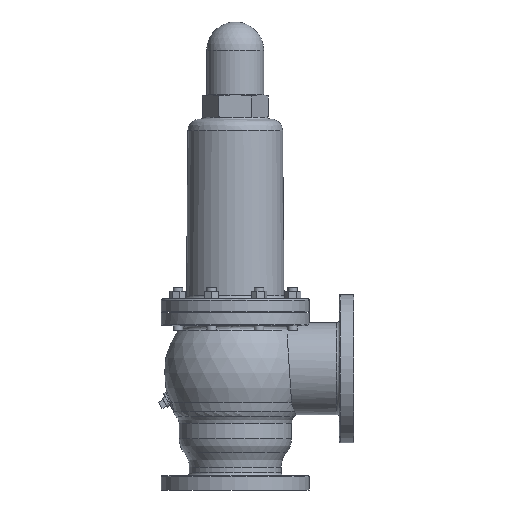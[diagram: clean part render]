
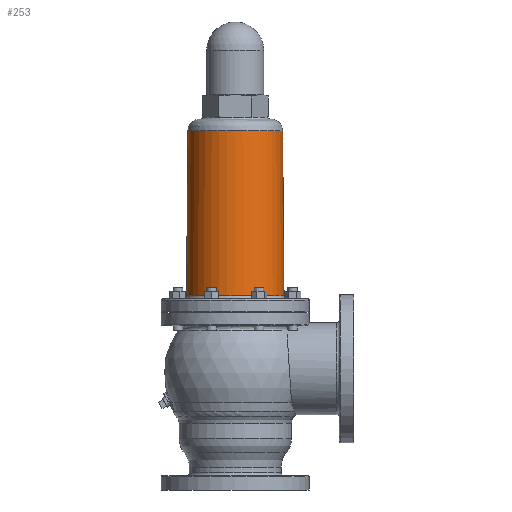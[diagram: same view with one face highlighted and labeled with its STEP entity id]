
A CAD part, front view. The second image highlights one B-rep face of the part: STEP entity #253.
In plain terms, the highlighted free-form (B-spline) face has degree [2, 1] with [5, 2] control points.
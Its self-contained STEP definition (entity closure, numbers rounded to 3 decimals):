
#253=ADVANCED_FACE('',(#1860),#1859,.T.);
#1859=( BOUNDED_SURFACE() B_SPLINE_SURFACE( 2,1,((#4317,#4318),(#4319,#4320),(#4321,#4322),(#4323,#4324),(#4325,#4326)), .UNSPECIFIED.,.F.,.F.,.F.) B_SPLINE_SURFACE_WITH_KNOTS((3,2,3),(2,2),(0.,0.5,1.),(0.,1.), .UNSPECIFIED. ) GEOMETRIC_REPRESENTATION_ITEM() RATIONAL_B_SPLINE_SURFACE(((1.,1.),(0.707,0.707),(1.,1.),(0.707,0.707),(1.,1.))) REPRESENTATION_ITEM('') SURFACE() );
#1860=FACE_OUTER_BOUND('',#4327,.T.);
#4317=CARTESIAN_POINT('',(79.999,0.,402.176));
#4318=CARTESIAN_POINT('',(82.456,0.,122.956));
#4319=CARTESIAN_POINT('',(79.999,-79.999,402.176));
#4320=CARTESIAN_POINT('',(82.456,-82.456,122.956));
#4321=CARTESIAN_POINT('',(0.,-79.999,402.176));
#4322=CARTESIAN_POINT('',(0.,-82.456,122.956));
#4323=CARTESIAN_POINT('',(-79.999,-79.999,402.176));
#4324=CARTESIAN_POINT('',(-82.456,-82.456,122.956));
#4325=CARTESIAN_POINT('',(-79.999,0.,402.176));
#4326=CARTESIAN_POINT('',(-82.456,0.,122.956));
#4327=EDGE_LOOP('',(#6211,#6212,#6213,#6214));
#6211=ORIENTED_EDGE('',*,*,#7218,.F.);
#6212=ORIENTED_EDGE('',*,*,#7221,.F.);
#6213=ORIENTED_EDGE('',*,*,#7222,.T.);
#6214=ORIENTED_EDGE('',*,*,#7223,.T.);
#7218=EDGE_CURVE('',#10747,#10754,#10755,.T.);
#7221=EDGE_CURVE('',#10773,#10747,#10774,.T.);
#7222=EDGE_CURVE('',#10773,#10780,#10781,.T.);
#7223=EDGE_CURVE('',#10780,#10754,#10787,.T.);
#10747=VERTEX_POINT('',#14656);
#10754=VERTEX_POINT('',#14660);
#10755=CIRCLE('',#14664,82.456);
#10773=VERTEX_POINT('',#14672);
#10774=(BOUNDED_CURVE() B_SPLINE_CURVE(1,(#14673,#14674),.UNSPECIFIED.,.F.,.F.) B_SPLINE_CURVE_WITH_KNOTS((2,2),(0.,1.),.UNSPECIFIED.) CURVE() GEOMETRIC_REPRESENTATION_ITEM() RATIONAL_B_SPLINE_CURVE((1.,1.)) REPRESENTATION_ITEM('') );
#10780=VERTEX_POINT('',#14675);
#10781=CIRCLE('',#14679,79.999);
#10787=(BOUNDED_CURVE() B_SPLINE_CURVE(1,(#14680,#14681),.UNSPECIFIED.,.F.,.F.) B_SPLINE_CURVE_WITH_KNOTS((2,2),(0.,1.),.UNSPECIFIED.) CURVE() GEOMETRIC_REPRESENTATION_ITEM() RATIONAL_B_SPLINE_CURVE((0.75,0.75)) REPRESENTATION_ITEM('') );
#14656=CARTESIAN_POINT('',(82.456,0.,122.956));
#14660=CARTESIAN_POINT('',(-82.456,0.,122.956));
#14661=CARTESIAN_POINT('',(0.,0.,122.956));
#14662=DIRECTION('',(0.,0.,-1.));
#14663=DIRECTION('',(-1.,0.,0.));
#14664=AXIS2_PLACEMENT_3D('',#14661,#14662,#14663);
#14672=CARTESIAN_POINT('',(79.999,0.,402.176));
#14673=CARTESIAN_POINT('',(79.999,0.,402.176));
#14674=CARTESIAN_POINT('',(82.456,0.,122.956));
#14675=CARTESIAN_POINT('',(-79.999,0.,402.176));
#14676=CARTESIAN_POINT('',(0.,0.,402.176));
#14677=DIRECTION('',(0.,0.,-1.));
#14678=DIRECTION('',(-1.,0.,0.));
#14679=AXIS2_PLACEMENT_3D('',#14676,#14677,#14678);
#14680=CARTESIAN_POINT('',(-79.999,0.,402.176));
#14681=CARTESIAN_POINT('',(-82.456,0.,122.956));
